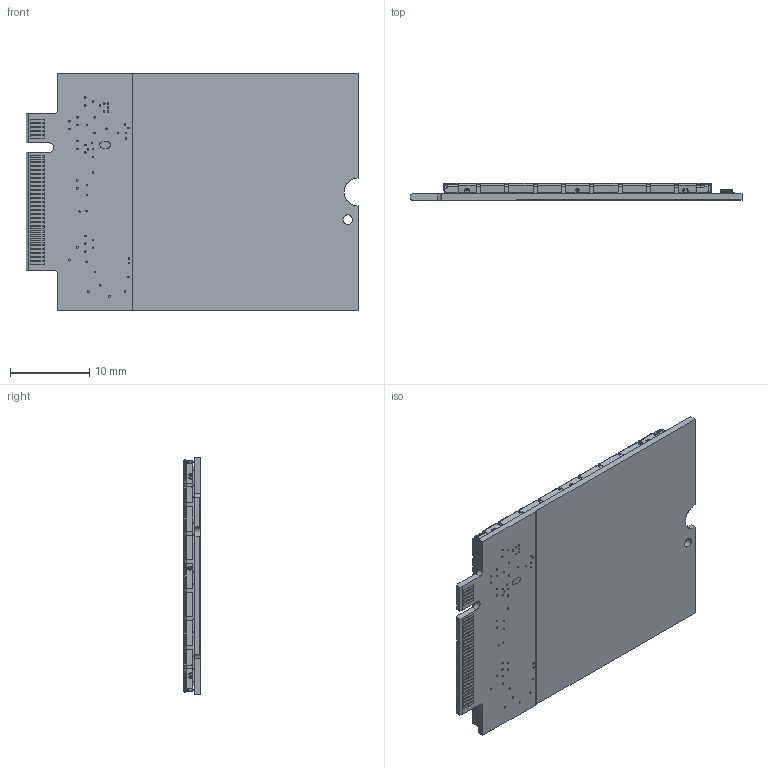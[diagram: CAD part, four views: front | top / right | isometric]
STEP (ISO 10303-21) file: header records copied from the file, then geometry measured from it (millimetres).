
FILE_DESCRIPTION((''),'2;1');
FILE_NAME('EM75XX_FOR_CUSTOMER','2018-11-05T',('ALee'),('Sierra Wireless'),'CREO PARAMETRIC BY PTC INC, 2016380','CREO PARAMETRIC BY PTC INC, 2016380','');
FILE_SCHEMA(('AUTOMOTIVE_DESIGN { 1 0 10303 214 1 1 1 1 }'));
Products named in the file (1): EM75XX_FOR_CUSTOMER
Bounding box: 42 x 2.12 x 30 mm (x, y, z)
Volume: 1490 mm3; surface area: 6178.5 mm2
Topology: 1 solids, 2 shells, 5372 faces, 14101 edges, 9274 vertices
Faces by surface type: plane 4561, cylinder 681, sphere 52, bspline 32, cone 30, torus 16
Entity records: 192801 total; most frequent: CARTESIAN_POINT 31952, ORIENTED_EDGE 28098, DIRECTION 25990, EDGE_CURVE 14049, VECTOR 12250, LINE 12250, VERTEX_POINT 9274, AXIS2_PLACEMENT_3D 6870
